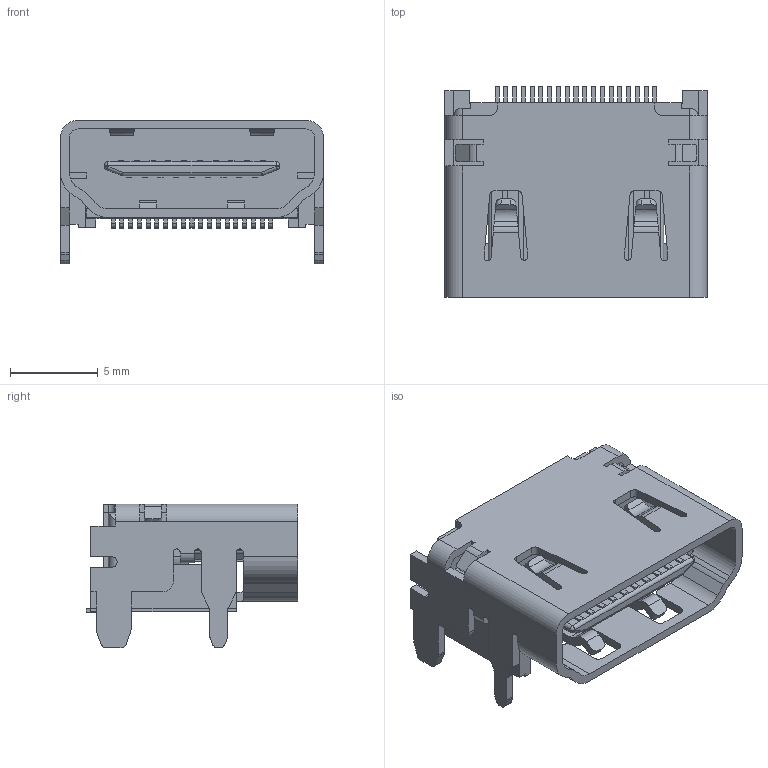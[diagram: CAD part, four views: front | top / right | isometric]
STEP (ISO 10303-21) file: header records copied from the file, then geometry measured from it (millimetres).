
FILE_DESCRIPTION(('FreeCAD Model'),'2;1');
FILE_NAME('Open CASCADE Shape Model','2026-08-04T13:19:13',('Author'),( ''),'Open CASCADE STEP processor 7.8','FreeCAD','Unknown');
FILE_SCHEMA(('AUTOMOTIVE_DESIGN { 1 0 10303 214 1 1 1 1 }'));
Length unit declared in the file: millimetre
Products named in the file (1): HDMI-SMD_HDMI-19PIN-043~HDMI-SMD_HDMI-9PIN-043~deMa
Bounding box: 15 x 12.05 x 8.2 mm (x, y, z)
Volume: 511.5 mm3; surface area: 1405.2 mm2
Topology: 2 solids, 2 shells, 622 faces, 5279 edges, 15222 vertices
Faces by surface type: plane 444, cylinder 172, sphere 6
Entity records: 60276 total; most frequent: CARTESIAN_POINT 21438, DIRECTION 7453, LINE 4179, VECTOR 4179, GEOMETRIC_CURVE_SET 3519, ORIENTED_EDGE 3514, TRIMMED_CURVE 3514, EDGE_CURVE 1757
